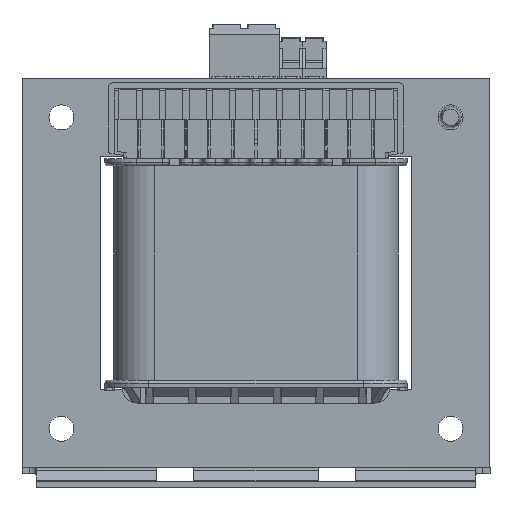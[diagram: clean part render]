
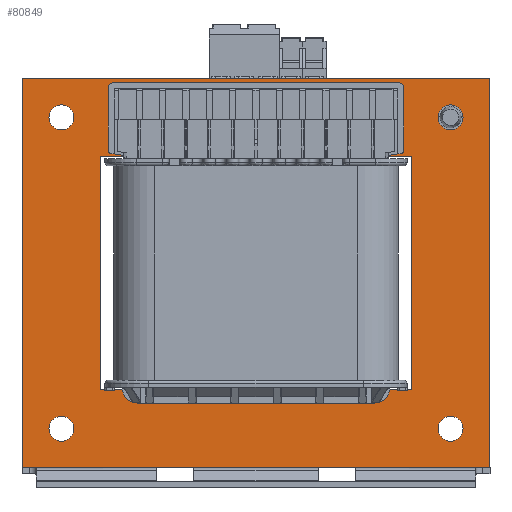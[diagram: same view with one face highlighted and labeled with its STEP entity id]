
A CAD part, front view. The second image highlights one B-rep face of the part: STEP entity #80849.
In plain terms, the highlighted planar face has unit normal (0, -1, 0).
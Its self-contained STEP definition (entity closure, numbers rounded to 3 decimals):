
#1067=FACE_BOUND('',#9056,.T.);
#1068=FACE_BOUND('',#9057,.T.);
#1069=FACE_BOUND('',#9058,.T.);
#1070=FACE_BOUND('',#9059,.T.);
#1071=FACE_BOUND('',#9060,.T.);
#1072=FACE_BOUND('',#9061,.T.);
#1281=PLANE('',#85615);
#4655=FACE_OUTER_BOUND('',#9055,.T.);
#9055=EDGE_LOOP('',(#55997,#55998,#55999,#56000));
#9056=EDGE_LOOP('',(#56001));
#9057=EDGE_LOOP('',(#56002));
#9058=EDGE_LOOP('',(#56003));
#9059=EDGE_LOOP('',(#56004));
#9060=EDGE_LOOP('',(#56005,#56006,#56007,#56008));
#9061=EDGE_LOOP('',(#56009,#56010,#56011,#56012));
#13624=LINE('',#114017,#23897);
#13627=LINE('',#114023,#23900);
#13630=LINE('',#114029,#23903);
#13633=LINE('',#114033,#23906);
#13636=LINE('',#114041,#23909);
#13639=LINE('',#114047,#23912);
#13642=LINE('',#114053,#23915);
#13645=LINE('',#114057,#23918);
#13646=LINE('',#114061,#23919);
#13647=LINE('',#114063,#23920);
#13648=LINE('',#114065,#23921);
#13649=LINE('',#114066,#23922);
#23897=VECTOR('',#91744,10.);
#23900=VECTOR('',#91749,10.);
#23903=VECTOR('',#91754,10.);
#23906=VECTOR('',#91759,10.);
#23909=VECTOR('',#91764,10.);
#23912=VECTOR('',#91769,10.);
#23915=VECTOR('',#91774,10.);
#23918=VECTOR('',#91779,10.);
#23919=VECTOR('',#91782,10.);
#23920=VECTOR('',#91783,10.);
#23921=VECTOR('',#91784,10.);
#23922=VECTOR('',#91785,10.);
#34136=CIRCLE('',#85596,4.);
#34138=CIRCLE('',#85599,4.);
#34140=CIRCLE('',#85602,4.);
#34142=CIRCLE('',#85605,4.);
#35564=VERTEX_POINT('',#113987);
#35566=VERTEX_POINT('',#113993);
#35568=VERTEX_POINT('',#113999);
#35570=VERTEX_POINT('',#114005);
#35574=VERTEX_POINT('',#114014);
#35575=VERTEX_POINT('',#114016);
#35577=VERTEX_POINT('',#114022);
#35579=VERTEX_POINT('',#114028);
#35582=VERTEX_POINT('',#114038);
#35583=VERTEX_POINT('',#114040);
#35585=VERTEX_POINT('',#114046);
#35587=VERTEX_POINT('',#114052);
#35588=VERTEX_POINT('',#114059);
#35589=VERTEX_POINT('',#114060);
#35590=VERTEX_POINT('',#114062);
#35591=VERTEX_POINT('',#114064);
#43553=EDGE_CURVE('',#35564,#35564,#34136,.T.);
#43556=EDGE_CURVE('',#35566,#35566,#34138,.T.);
#43559=EDGE_CURVE('',#35568,#35568,#34140,.T.);
#43562=EDGE_CURVE('',#35570,#35570,#34142,.T.);
#43567=EDGE_CURVE('',#35575,#35574,#13624,.T.);
#43570=EDGE_CURVE('',#35577,#35575,#13627,.T.);
#43573=EDGE_CURVE('',#35579,#35577,#13630,.T.);
#43576=EDGE_CURVE('',#35574,#35579,#13633,.T.);
#43579=EDGE_CURVE('',#35583,#35582,#13636,.T.);
#43582=EDGE_CURVE('',#35585,#35583,#13639,.T.);
#43585=EDGE_CURVE('',#35587,#35585,#13642,.T.);
#43588=EDGE_CURVE('',#35582,#35587,#13645,.T.);
#43589=EDGE_CURVE('',#35588,#35589,#13646,.T.);
#43590=EDGE_CURVE('',#35590,#35588,#13647,.T.);
#43591=EDGE_CURVE('',#35591,#35590,#13648,.T.);
#43592=EDGE_CURVE('',#35589,#35591,#13649,.T.);
#55997=ORIENTED_EDGE('',*,*,#43589,.F.);
#55998=ORIENTED_EDGE('',*,*,#43590,.F.);
#55999=ORIENTED_EDGE('',*,*,#43591,.F.);
#56000=ORIENTED_EDGE('',*,*,#43592,.F.);
#56001=ORIENTED_EDGE('',*,*,#43553,.T.);
#56002=ORIENTED_EDGE('',*,*,#43556,.T.);
#56003=ORIENTED_EDGE('',*,*,#43559,.T.);
#56004=ORIENTED_EDGE('',*,*,#43562,.T.);
#56005=ORIENTED_EDGE('',*,*,#43567,.T.);
#56006=ORIENTED_EDGE('',*,*,#43576,.T.);
#56007=ORIENTED_EDGE('',*,*,#43573,.T.);
#56008=ORIENTED_EDGE('',*,*,#43570,.T.);
#56009=ORIENTED_EDGE('',*,*,#43579,.T.);
#56010=ORIENTED_EDGE('',*,*,#43588,.T.);
#56011=ORIENTED_EDGE('',*,*,#43585,.T.);
#56012=ORIENTED_EDGE('',*,*,#43582,.T.);
#80849=ADVANCED_FACE('',(#4655,#1067,#1068,#1069,#1070,#1071,#1072),#1281,
 .F.);
#85596=AXIS2_PLACEMENT_3D('',#113988,#91714,#91715);
#85599=AXIS2_PLACEMENT_3D('',#113994,#91721,#91722);
#85602=AXIS2_PLACEMENT_3D('',#114000,#91728,#91729);
#85605=AXIS2_PLACEMENT_3D('',#114006,#91735,#91736);
#85615=AXIS2_PLACEMENT_3D('',#114058,#91780,#91781);
#91714=DIRECTION('center_axis',(0.,1.,0.));
#91715=DIRECTION('ref_axis',(1.,0.,0.));
#91721=DIRECTION('center_axis',(0.,1.,0.));
#91722=DIRECTION('ref_axis',(1.,0.,0.));
#91728=DIRECTION('center_axis',(0.,1.,0.));
#91729=DIRECTION('ref_axis',(1.,0.,0.));
#91735=DIRECTION('center_axis',(0.,1.,0.));
#91736=DIRECTION('ref_axis',(1.,0.,0.));
#91744=DIRECTION('',(0.,0.,1.));
#91749=DIRECTION('',(-1.,0.,0.));
#91754=DIRECTION('',(0.,0.,-1.));
#91759=DIRECTION('',(1.,0.,0.));
#91764=DIRECTION('',(0.,0.,1.));
#91769=DIRECTION('',(-1.,0.,0.));
#91774=DIRECTION('',(0.,0.,-1.));
#91779=DIRECTION('',(1.,0.,0.));
#91780=DIRECTION('center_axis',(0.,1.,0.));
#91781=DIRECTION('ref_axis',(0.,0.,1.));
#91782=DIRECTION('',(0.,0.,-1.));
#91783=DIRECTION('',(1.,0.,0.));
#91784=DIRECTION('',(0.,0.,1.));
#91785=DIRECTION('',(-1.,0.,0.));
#113987=CARTESIAN_POINT('',(-66.5,-24.8,-50.));
#113988=CARTESIAN_POINT('Origin',(-62.5,-24.8,-50.));
#113993=CARTESIAN_POINT('',(58.5,-24.8,-50.));
#113994=CARTESIAN_POINT('Origin',(62.5,-24.8,-50.));
#113999=CARTESIAN_POINT('',(58.5,-24.8,50.));
#114000=CARTESIAN_POINT('Origin',(62.5,-24.8,50.));
#114005=CARTESIAN_POINT('',(-66.5,-24.8,50.));
#114006=CARTESIAN_POINT('Origin',(-62.5,-24.8,50.));
#114014=CARTESIAN_POINT('',(-50.,-24.8,37.5));
#114016=CARTESIAN_POINT('',(-50.,-24.8,-37.5));
#114017=CARTESIAN_POINT('',(-50.,-24.8,18.75));
#114022=CARTESIAN_POINT('',(-25.,-24.8,-37.5));
#114023=CARTESIAN_POINT('',(-25.,-24.8,-37.5));
#114028=CARTESIAN_POINT('',(-25.,-24.8,37.5));
#114029=CARTESIAN_POINT('',(-25.,-24.8,-18.75));
#114033=CARTESIAN_POINT('',(-12.5,-24.8,37.5));
#114038=CARTESIAN_POINT('',(25.,-24.8,37.5));
#114040=CARTESIAN_POINT('',(25.,-24.8,-37.5));
#114041=CARTESIAN_POINT('',(25.,-24.8,18.75));
#114046=CARTESIAN_POINT('',(50.,-24.8,-37.5));
#114047=CARTESIAN_POINT('',(12.5,-24.8,-37.5));
#114052=CARTESIAN_POINT('',(50.,-24.8,37.5));
#114053=CARTESIAN_POINT('',(50.,-24.8,-18.75));
#114057=CARTESIAN_POINT('',(25.,-24.8,37.5));
#114058=CARTESIAN_POINT('Origin',(0.,-24.8,0.));
#114059=CARTESIAN_POINT('',(75.,-24.8,62.5));
#114060=CARTESIAN_POINT('',(75.,-24.8,-62.5));
#114061=CARTESIAN_POINT('',(75.,-24.8,-62.5));
#114062=CARTESIAN_POINT('',(-75.,-24.8,62.5));
#114063=CARTESIAN_POINT('',(75.,-24.8,62.5));
#114064=CARTESIAN_POINT('',(-75.,-24.8,-62.5));
#114065=CARTESIAN_POINT('',(-75.,-24.8,62.5));
#114066=CARTESIAN_POINT('',(-75.,-24.8,-62.5));
